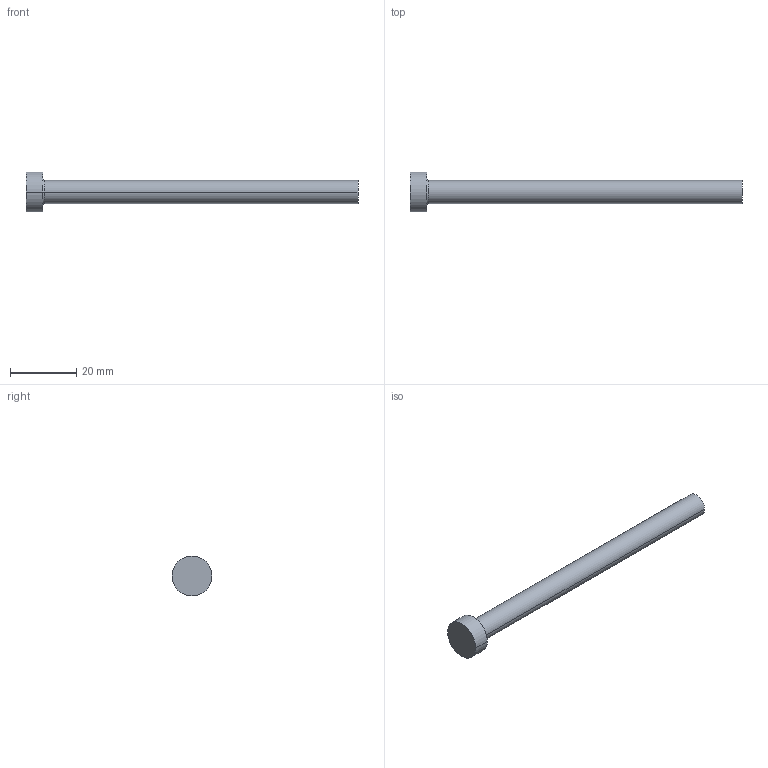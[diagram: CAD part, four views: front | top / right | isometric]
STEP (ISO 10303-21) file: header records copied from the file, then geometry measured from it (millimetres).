
FILE_DESCRIPTION (( 'STEP AP214' ), '1' );
FILE_NAME ('A-7x100.STEP', '2020-05-29T15:45:17', ( 'August' ), ( '' ), 'SwSTEP 2.0', 'SolidWorks 2018', '' );
FILE_SCHEMA (( 'AUTOMOTIVE_DESIGN' ));
Length unit declared in the file: millimetre
Products named in the file (1): A-7x100
Bounding box: 100 x 12 x 12 mm (x, y, z)
Volume: 4222.7 mm3; surface area: 2499.2 mm2
Topology: 1 solids, 1 shells, 9 faces, 16 edges, 10 vertices
Faces by surface type: cylinder 4, plane 3, torus 2
Entity records: 260 total; most frequent: DIRECTION 48, CARTESIAN_POINT 36, ORIENTED_EDGE 32, AXIS2_PLACEMENT_3D 22, EDGE_CURVE 16, CIRCLE 12, VERTEX_POINT 10, EDGE_LOOP 10
